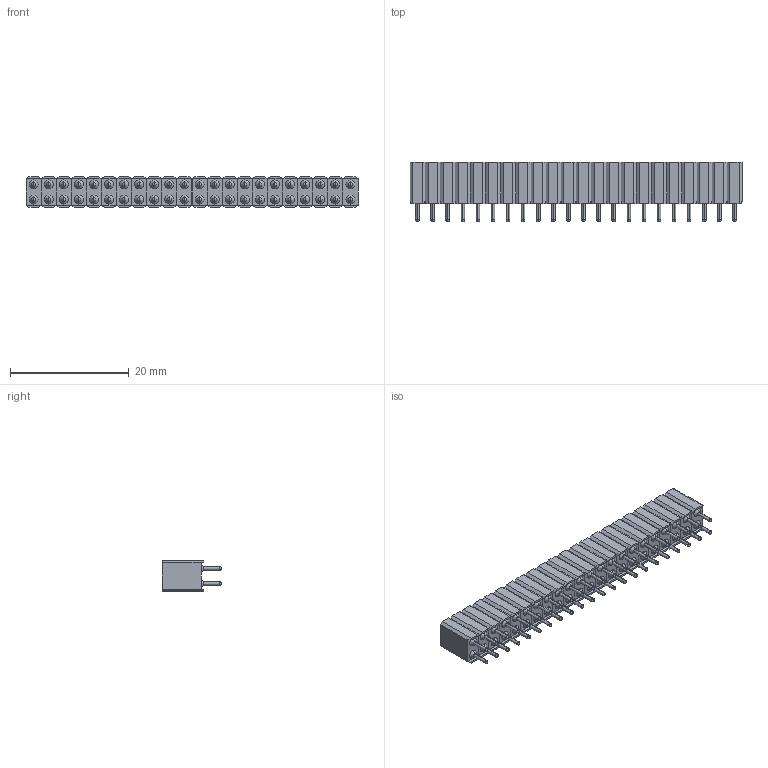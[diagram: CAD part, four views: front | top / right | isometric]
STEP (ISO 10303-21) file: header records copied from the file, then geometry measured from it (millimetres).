
FILE_DESCRIPTION (( 'STEP AP203' ), '1' );
FILE_NAME ('PM254-2-22-Z-7.0-XX-C (2.54双排 排母 圆直针 塑高7.0 L=10mm)-HCTL.STEP', '2026-04-25T07:05:18', ( '' ), ( '' ), 'SwSTEP 2.0', 'SolidWorks 2025', '' );
FILE_SCHEMA (( 'CONFIG_CONTROL_DESIGN' ));
Length unit declared in the file: millimetre
Products named in the file (1): PM254-2-22-Z-7.0-XX-C (2.54双排 排母 圆直针 塑高7.0 L=10mm)-HCTL
Bounding box: 55.88 x 10 x 5.08 mm (x, y, z)
Volume: 1851.9 mm3; surface area: 3502.8 mm2
Topology: 22 solids, 22 shells, 968 faces, 2244 edges, 1408 vertices
Faces by surface type: plane 440, cylinder 264, cone 176, sphere 88
Entity records: 26175 total; most frequent: DIRECTION 4842, CARTESIAN_POINT 4357, ORIENTED_EDGE 4136, EDGE_CURVE 2068, AXIS2_PLACEMENT_3D 1805, VERTEX_POINT 1320, LINE 1232, VECTOR 1232
